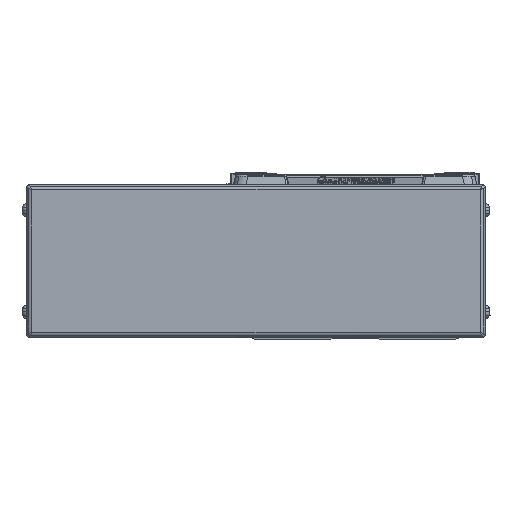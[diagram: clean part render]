
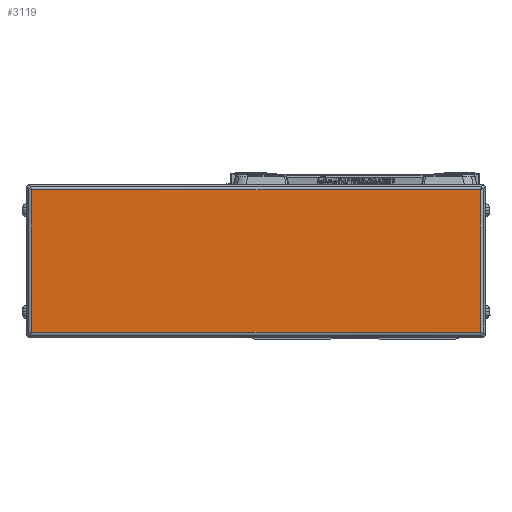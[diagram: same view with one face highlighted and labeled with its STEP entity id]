
A CAD part, left-side view. The second image highlights one B-rep face of the part: STEP entity #3119.
In plain terms, the highlighted planar face has unit normal (-1, 0, 0).
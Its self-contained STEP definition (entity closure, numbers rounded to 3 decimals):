
#3119=ADVANCED_FACE('',(#8159),#8160,.F.);
#8159=FACE_OUTER_BOUND('',#15730,.T.);
#8160=PLANE('',#15731);
#15730=EDGE_LOOP('',(#24538,#24539,#24540,#24541));
#15731=AXIS2_PLACEMENT_3D('',#24542,#24543,#24544);
#24538=ORIENTED_EDGE('',*,*,#45230,.T.);
#24539=ORIENTED_EDGE('',*,*,#45231,.T.);
#24540=ORIENTED_EDGE('',*,*,#45232,.T.);
#24541=ORIENTED_EDGE('',*,*,#45233,.T.);
#24542=CARTESIAN_POINT('',(-616.,39.,0.));
#24543=DIRECTION('',(1.0,0.,0.));
#24544=DIRECTION('',(0.,0.,1.0));
#45230=EDGE_CURVE('',#54204,#54205,#54206,.T.);
#45231=EDGE_CURVE('',#54205,#54207,#54208,.T.);
#45232=EDGE_CURVE('',#54207,#54209,#54210,.T.);
#45233=EDGE_CURVE('',#54209,#54204,#54211,.T.);
#54204=VERTEX_POINT('',#66960);
#54205=VERTEX_POINT('',#66961);
#54206=LINE('',#66962,#66963);
#54207=VERTEX_POINT('',#66964);
#54208=LINE('',#66965,#66966);
#54209=VERTEX_POINT('',#66967);
#54210=LINE('',#66968,#66969);
#54211=LINE('',#66970,#66971);
#66960=CARTESIAN_POINT('',(-616.,-49.2,28.));
#66961=CARTESIAN_POINT('',(-616.0,127.2,28.));
#66962=CARTESIAN_POINT('',(-616.,39.,28.));
#66963=VECTOR('',#82781,10.0);
#66964=CARTESIAN_POINT('',(-616.0,127.2,-28.));
#66965=CARTESIAN_POINT('',(-616.0,127.2,0.));
#66966=VECTOR('',#82782,10.0);
#66967=CARTESIAN_POINT('',(-616.,-49.2,-28.));
#66968=CARTESIAN_POINT('',(-616.0,39.,-28.));
#66969=VECTOR('',#82783,10.0);
#66970=CARTESIAN_POINT('',(-616.,-49.2,0.));
#66971=VECTOR('',#82784,10.0);
#82781=DIRECTION('',(0.,1.0,0.));
#82782=DIRECTION('',(0.,0.,-1.0));
#82783=DIRECTION('',(0.,-1.0,0.));
#82784=DIRECTION('',(0.,0.,1.0));
